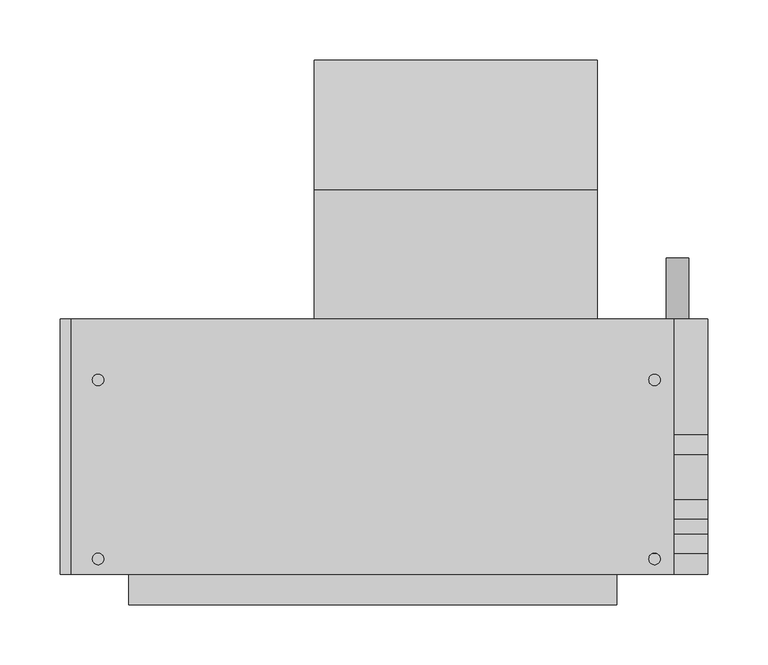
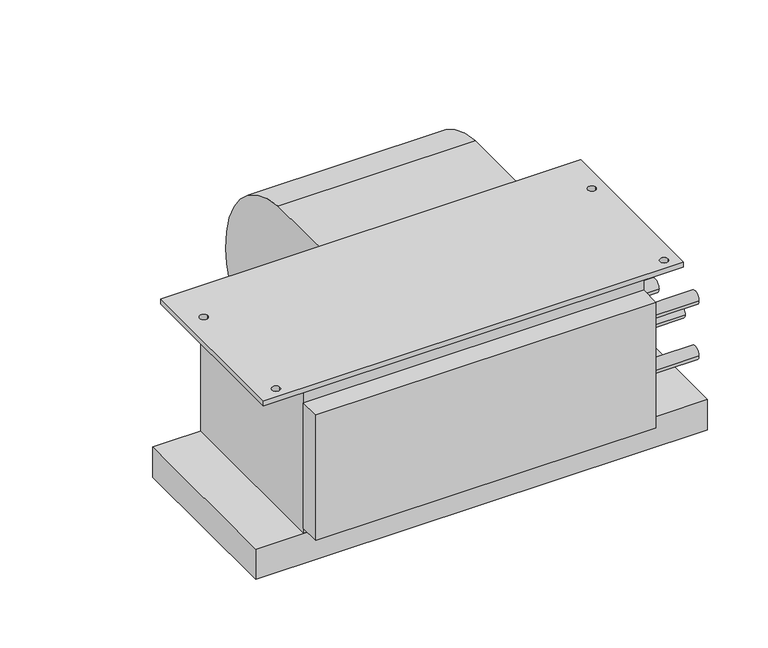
"""IFC4 building model written with IfcOpenShell, lengths in millimetres: proxy geometry, Concealed_Horizontal_Fan_Coil_Unit_-_42CAA_-_CARRIER_-_4-Pipe_RH_2022 : Size 02 - 277v/60Hz/1Ph - 4/1 Coil."""

from ifc_helpers import new_model, si_unit, point, frame, frame_2d, origin, place, context, project, spatial, polyline, circle_curve, trimmed, segment, composite_curve, outline, extrude, source, transform, mapped, element, save


def mechanical_equipment_669136e0(model_context):
    return source(origin(), model_context, "Body", "SweptSolid", [
        extrude(outline(composite_curve([segment(trimmed(circle_curve(frame_2d((-33.198831, -136.0299844)), 117.3559541), [point((-23.8125, -19.05))], [point((84.1375, -138.176))], False, "CARTESIAN"), True, "CONTINUOUS"), segment(trimmed(circle_curve(frame_2d((-11.5977337, -136.4250563)), 95.7512443), [point((84.1375, -138.176))], [point((-23.8125, -231.394))], False, "CARTESIAN"), True, "CONTINUOUS"), segment(trimmed(circle_curve(frame_2d((-11.6288131, -136.6666968)), 95.5076133), [point((-23.8125, -231.394))], [point((-107.1245, -138.176))], False, "CARTESIAN"), True, "CONTINUOUS"), segment(trimmed(circle_curve(frame_2d((-126.2059828, -138.4775816)), 19.0838659), [point((-107.1245, -138.176))], [point((-119.3963373, -120.65))], True, "CARTESIAN"), True, "CONTINUOUS"), segment(polyline([(-119.3963373, -120.65), (-131.7625, -120.65), (-131.7625, -19.05), (-23.8125, -19.05)]), True, "CONTINUOUS")], self_intersect=False)), frame((104.013, 0.0, 0.0), z_axis=(1.0, 0.0, 0.0), x_axis=(0.0, 1.0, 0.0)), (0.0, 0.0, 1.0), 235.712),
        extrude(outline(polyline([(403.225, -131.7625), (403.225, -344.4875), (-98.425, -344.4875), (-98.425, -131.7625), (403.225, -131.7625)]), holes=[composite_curve([segment(trimmed(circle_curve(frame_2d((-76.2, -182.5625)), 4.7625), [point((-80.9625, -182.5625))], [point((-71.4375, -182.5625))], True, "CARTESIAN"), True, "CONTINUOUS"), segment(trimmed(circle_curve(frame_2d((-76.2, -182.5625)), 4.7625), [point((-71.4375, -182.5625))], [point((-80.9625, -182.5625))], True, "CARTESIAN"), True, "CONTINUOUS")], self_intersect=False), composite_curve([segment(trimmed(circle_curve(frame_2d((-76.2, -331.7875)), 4.7625), [point((-80.9625, -331.7875))], [point((-71.4375, -331.7875))], True, "CARTESIAN"), True, "CONTINUOUS"), segment(trimmed(circle_curve(frame_2d((-76.2, -331.7875)), 4.7625), [point((-71.4375, -331.7875))], [point((-80.9625, -331.7875))], True, "CARTESIAN"), True, "CONTINUOUS")], self_intersect=False), composite_curve([segment(trimmed(circle_curve(frame_2d((387.35, -182.5625)), 4.7625), [point((382.5875, -182.5625))], [point((392.1125, -182.5625))], True, "CARTESIAN"), True, "CONTINUOUS"), segment(trimmed(circle_curve(frame_2d((387.35, -182.5625)), 4.7625), [point((392.1125, -182.5625))], [point((382.5875, -182.5625))], True, "CARTESIAN"), True, "CONTINUOUS")], self_intersect=False), composite_curve([segment(trimmed(circle_curve(frame_2d((387.35, -331.7875)), 4.7625), [point((382.5875, -331.7875))], [point((392.1125, -331.7875))], True, "CARTESIAN"), True, "CONTINUOUS"), segment(trimmed(circle_curve(frame_2d((387.35, -331.7875)), 4.7625), [point((392.1125, -331.7875))], [point((382.5875, -331.7875))], True, "CARTESIAN"), True, "CONTINUOUS")], self_intersect=False)]), frame((0.0, 0.0, -6.35), z_axis=(0.0, 0.0, 1.0), x_axis=(1.0, 0.0, 0.0)), (0.0, 0.0, 1.0), 6.35),
        extrude(outline(composite_curve([segment(trimmed(circle_curve(frame_2d((-209.55, 406.4)), 9.525), [point((-209.55, 396.875))], [point((-209.55, 415.925))], False, "CARTESIAN"), True, "CONTINUOUS"), segment(trimmed(circle_curve(frame_2d((-209.55, 406.4)), 9.525), [point((-209.55, 415.925))], [point((-209.55, 396.875))], False, "CARTESIAN"), True, "CONTINUOUS")], self_intersect=False)), frame((0.0, -131.7625, 0.0), z_axis=(0.0, 1.0, 0.0), x_axis=(0.0, 0.0, 1.0)), (0.0, 0.0, 1.0), 50.8),
        extrude(outline(polyline([(355.6, -369.8875), (-50.8, -369.8875), (-50.8, -344.4875), (355.6, -344.4875), (355.6, -369.8875)])), frame((0.0, 0.0, -177.8), z_axis=(0.0, 0.0, 1.0), x_axis=(1.0, 0.0, 0.0)), (0.0, 0.0, 1.0), 158.75),
        extrude(outline(polyline([(431.8, -131.7625), (431.8, -344.4875), (-107.95, -344.4875), (-107.95, -131.7625), (431.8, -131.7625)])), frame((0.0, 0.0, -222.25), z_axis=(0.0, 0.0, 1.0), x_axis=(1.0, 0.0, 0.0)), (0.0, 0.0, 1.0), 38.1),
        extrude(outline(composite_curve([segment(trimmed(circle_curve(frame_2d((-236.5375, -104.775)), 7.9375), [point((-244.475, -104.775))], [point((-228.6, -104.775))], False, "CARTESIAN"), True, "CONTINUOUS"), segment(trimmed(circle_curve(frame_2d((-236.5375, -104.775)), 7.9375), [point((-228.6, -104.775))], [point((-244.475, -104.775))], False, "CARTESIAN"), True, "CONTINUOUS")], self_intersect=False)), frame((355.6, 0.0, 0.0), z_axis=(1.0, 0.0, 0.0), x_axis=(0.0, 1.0, 0.0)), (0.0, 0.0, 1.0), 76.2),
        extrude(outline(composite_curve([segment(trimmed(circle_curve(frame_2d((-290.5125, -104.775)), 7.9375), [point((-298.45, -104.775))], [point((-282.575, -104.775))], False, "CARTESIAN"), True, "CONTINUOUS"), segment(trimmed(circle_curve(frame_2d((-290.5125, -104.775)), 7.9375), [point((-282.575, -104.775))], [point((-298.45, -104.775))], False, "CARTESIAN"), True, "CONTINUOUS")], self_intersect=False)), frame((355.6, 0.0, 0.0), z_axis=(1.0, 0.0, 0.0), x_axis=(0.0, 1.0, 0.0)), (0.0, 0.0, 1.0), 76.2),
        extrude(outline(composite_curve([segment(trimmed(circle_curve(frame_2d((-319.0875, -69.85)), 7.9375), [point((-327.025, -69.85))], [point((-311.15, -69.85))], False, "CARTESIAN"), True, "CONTINUOUS"), segment(trimmed(circle_curve(frame_2d((-319.0875, -69.85)), 7.9375), [point((-311.15, -69.85))], [point((-327.025, -69.85))], False, "CARTESIAN"), True, "CONTINUOUS")], self_intersect=False)), frame((355.6, 0.0, 0.0), z_axis=(1.0, 0.0, 0.0), x_axis=(0.0, 1.0, 0.0)), (0.0, 0.0, 1.0), 76.2),
        extrude(outline(composite_curve([segment(trimmed(circle_curve(frame_2d((-319.0875, -139.7)), 7.9375), [point((-327.025, -139.7))], [point((-311.15, -139.7))], False, "CARTESIAN"), True, "CONTINUOUS"), segment(trimmed(circle_curve(frame_2d((-319.0875, -139.7)), 7.9375), [point((-311.15, -139.7))], [point((-327.025, -139.7))], False, "CARTESIAN"), True, "CONTINUOUS")], self_intersect=False)), frame((355.6, 0.0, 0.0), z_axis=(1.0, 0.0, 0.0), x_axis=(0.0, 1.0, 0.0)), (0.0, 0.0, 1.0), 76.2),
        extrude(outline(polyline([(355.6, -344.4875), (-50.8, -344.4875), (-50.8, -131.7625), (355.6, -131.7625), (355.6, -344.4875)])), frame((0.0, 0.0, -184.15), z_axis=(0.0, 0.0, 1.0), x_axis=(1.0, 0.0, 0.0)), (0.0, 0.0, 1.0), 177.8),
    ])


if __name__ == "__main__":
    model = new_model("IFC4")
    model_context = context("Model", 3, world=origin())
    ifc_project = project(units=[si_unit("LENGTHUNIT", "METRE", prefix="MILLI")], contexts=[model_context])
    site = spatial("IfcSite", under=ifc_project)
    building = spatial("IfcBuilding", under=site)
    placement = place(None, origin())
    mechanical_equipment_shape = mechanical_equipment_669136e0(model_context)
    element("IfcBuildingElementProxy", 1, Name="Concealed_Horizontal_Fan_Coil_Unit_-_42CAA_-_CARRIER_-_4-Pipe_RH_2022 : Size 02 - 277v/60Hz/1Ph - 4/1 Coil", ObjectType="Concealed_Horizontal_Fan_Coil_Unit_-_42CAA_-_CARRIER_-_4-Pipe_RH_2022 : Size 02 - 277v/60Hz/1Ph - 4/1 Coil", at=placement, inside=building, context=model_context, shape_type="MappedRepresentation", body=[
        mapped(mechanical_equipment_shape, transform((0.0, 0.0, 0.0), x_axis=(1.0, 0.0, 0.0), y_axis=(0.0, 1.0, 0.0), z_axis=(0.0, 0.0, 1.0))),
    ])
    save(model, "model.ifc")
